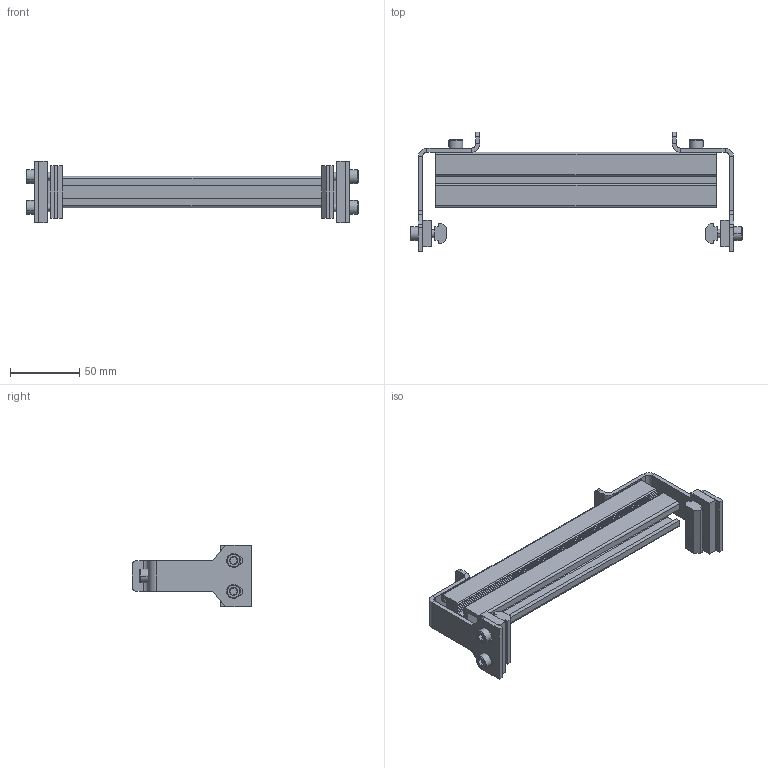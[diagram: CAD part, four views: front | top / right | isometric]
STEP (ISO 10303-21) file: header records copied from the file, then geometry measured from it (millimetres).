
FILE_DESCRIPTION((''),'2;1');
FILE_NAME('207133-08_ASM','2016-06-23T',('adam.dellomodarme'),(''),'PRO/ENGINEER BY PARAMETRIC TECHNOLOGY CORPORATION, 2012420','PRO/ENGINEER BY PARAMETRIC TECHNOLOGY CORPORATION, 2012420','');
FILE_SCHEMA(('CONFIG_CONTROL_DESIGN'));
Length unit declared in the file: inch
Products named in the file (9): 201937; 9206XXM_920620M; 639971M; 202444; 9206XXM_920614M; 200626M; 207135-WW_207135-08; ASM0001_ASM; 207133-08_ASM
Assembly tree (16 placements, depth 3):
  207133-08_ASM
    ASM0001_ASM
      201937  x2
      9206XXM_920620M  x4
      639971M  x2
      202444  x2
      9206XXM_920614M  x2
      200626M  x2
      207135-WW_207135-08
Bounding box: 238.97 x 85.8 x 44.45 mm (x, y, z)
Volume: 126390.5 mm3; surface area: 80294.3 mm2
Topology: 15 solids, 15 shells, 428 faces, 1050 edges, 664 vertices
Faces by surface type: plane 258, cylinder 104, cone 66
Entity records: 7558 total; most frequent: CARTESIAN_POINT 1393, DIRECTION 1272, ORIENTED_EDGE 1216, EDGE_CURVE 608, VECTOR 460, LINE 460, AXIS2_PLACEMENT_3D 406, VERTEX_POINT 392
